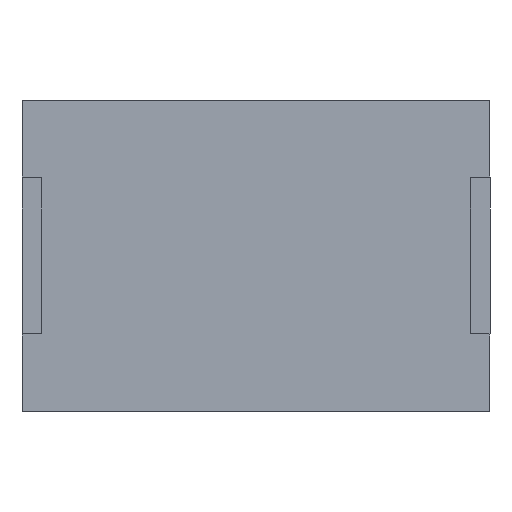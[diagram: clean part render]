
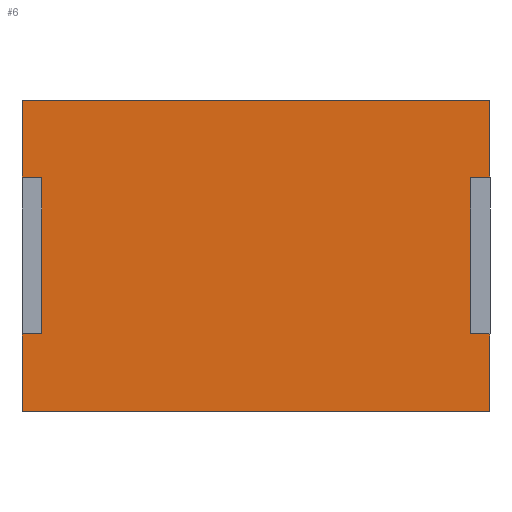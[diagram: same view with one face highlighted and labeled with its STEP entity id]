
A CAD part, front view. The second image highlights one B-rep face of the part: STEP entity #6.
In plain terms, the highlighted planar face has unit normal (0, -1, 0.001).
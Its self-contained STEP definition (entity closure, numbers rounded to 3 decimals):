
#1 = ORIENTED_EDGE ( 'NONE', *, *, #659, .F. ) ;
#6 = ADVANCED_FACE ( 'NONE', ( #354 ), #170, .F. ) ;
#11 = DIRECTION ( 'NONE',  ( -1., 0., 0. ) ) ;
#18 = VECTOR ( 'NONE', #207, 1000. ) ;
#25 = DIRECTION ( 'NONE',  ( 0., 0.001, 1. ) ) ;
#34 = CARTESIAN_POINT ( 'NONE',  ( 15., 0.012, 10. ) ) ;
#36 = CARTESIAN_POINT ( 'NONE',  ( 15., 0.012, 10. ) ) ;
#45 = ORIENTED_EDGE ( 'NONE', *, *, #668, .F. ) ;
#55 = AXIS2_PLACEMENT_3D ( 'NONE', #786, #109, #348 ) ;
#84 = LINE ( 'NONE', #146, #332 ) ;
#94 = VECTOR ( 'NONE', #25, 1000. ) ;
#98 = CARTESIAN_POINT ( 'NONE',  ( 15., 0.009, 5. ) ) ;
#102 = DIRECTION ( 'NONE',  ( 0., -0.001, -1. ) ) ;
#106 = EDGE_LOOP ( 'NONE', ( #154, #345, #615, #426, #557, #1, #683, #696, #437, #769, #45, #281 ) ) ;
#109 = DIRECTION ( 'NONE',  ( 0., 1., -0.001 ) ) ;
#116 = CARTESIAN_POINT ( 'NONE',  ( -15., 0., 10. ) ) ;
#121 = VECTOR ( 'NONE', #352, 1000. ) ;
#142 = VERTEX_POINT ( 'NONE', #237 ) ;
#146 = CARTESIAN_POINT ( 'NONE',  ( -15., 0., 10. ) ) ;
#149 = LINE ( 'NONE', #447, #609 ) ;
#154 = ORIENTED_EDGE ( 'NONE', *, *, #520, .F. ) ;
#170 = PLANE ( 'NONE',  #55 ) ;
#171 = DIRECTION ( 'NONE',  ( 1., 0., 0. ) ) ;
#173 = VECTOR ( 'NONE', #256, 1000. ) ;
#207 = DIRECTION ( 'NONE',  ( -1., 0., 0. ) ) ;
#212 = DIRECTION ( 'NONE',  ( 1., 0., 0. ) ) ;
#221 = EDGE_CURVE ( 'NONE', #638, #510, #522, .T. ) ;
#223 = VECTOR ( 'NONE', #212, 1000. ) ;
#232 = CARTESIAN_POINT ( 'NONE',  ( 13.75, 0.009, 5. ) ) ;
#237 = CARTESIAN_POINT ( 'NONE',  ( -15., -0.012, -10. ) ) ;
#242 = EDGE_CURVE ( 'NONE', #567, #455, #568, .T. ) ;
#250 = CARTESIAN_POINT ( 'NONE',  ( 13.75, 0.009, 5. ) ) ;
#252 = LINE ( 'NONE', #116, #121 ) ;
#256 = DIRECTION ( 'NONE',  ( 0., -0.001, -1. ) ) ;
#260 = VECTOR ( 'NONE', #284, 1000. ) ;
#267 = CARTESIAN_POINT ( 'NONE',  ( 15., 0.003, -5. ) ) ;
#281 = ORIENTED_EDGE ( 'NONE', *, *, #371, .F. ) ;
#284 = DIRECTION ( 'NONE',  ( 1., 0., 0. ) ) ;
#286 = VERTEX_POINT ( 'NONE', #34 ) ;
#291 = LINE ( 'NONE', #780, #664 ) ;
#308 = CARTESIAN_POINT ( 'NONE',  ( 15., 0.012, 10. ) ) ;
#332 = VECTOR ( 'NONE', #384, 1000. ) ;
#345 = ORIENTED_EDGE ( 'NONE', *, *, #466, .F. ) ;
#348 = DIRECTION ( 'NONE',  ( 0., 0.001, 1. ) ) ;
#352 = DIRECTION ( 'NONE',  ( 0., -0.001, -1. ) ) ;
#354 = FACE_OUTER_BOUND ( 'NONE', #106, .T. ) ;
#371 = EDGE_CURVE ( 'NONE', #685, #495, #611, .T. ) ;
#375 = LINE ( 'NONE', #574, #94 ) ;
#377 = CARTESIAN_POINT ( 'NONE',  ( 15., 0., -10. ) ) ;
#384 = DIRECTION ( 'NONE',  ( 0., -0.001, -1. ) ) ;
#389 = LINE ( 'NONE', #509, #223 ) ;
#392 = LINE ( 'NONE', #98, #18 ) ;
#409 = CARTESIAN_POINT ( 'NONE',  ( 15., 0.003, -5. ) ) ;
#424 = DIRECTION ( 'NONE',  ( 0., -0.001, -1. ) ) ;
#426 = ORIENTED_EDGE ( 'NONE', *, *, #746, .T. ) ;
#427 = LINE ( 'NONE', #308, #173 ) ;
#437 = ORIENTED_EDGE ( 'NONE', *, *, #643, .T. ) ;
#439 = CARTESIAN_POINT ( 'NONE',  ( -15., 0., 10. ) ) ;
#440 = VERTEX_POINT ( 'NONE', #439 ) ;
#442 = VERTEX_POINT ( 'NONE', #619 ) ;
#444 = CARTESIAN_POINT ( 'NONE',  ( 13.75, 0.003, -5. ) ) ;
#447 = CARTESIAN_POINT ( 'NONE',  ( -15., -0.003, 5. ) ) ;
#453 = CARTESIAN_POINT ( 'NONE',  ( -15., -0.003, 5. ) ) ;
#455 = VERTEX_POINT ( 'NONE', #377 ) ;
#464 = CARTESIAN_POINT ( 'NONE',  ( -15., -0.009, -5. ) ) ;
#466 = EDGE_CURVE ( 'NONE', #286, #653, #427, .T. ) ;
#495 = VERTEX_POINT ( 'NONE', #444 ) ;
#509 = CARTESIAN_POINT ( 'NONE',  ( -15., -0.012, -10. ) ) ;
#510 = VERTEX_POINT ( 'NONE', #642 ) ;
#520 = EDGE_CURVE ( 'NONE', #653, #685, #392, .T. ) ;
#522 = LINE ( 'NONE', #464, #260 ) ;
#526 = VECTOR ( 'NONE', #102, 1000. ) ;
#549 = DIRECTION ( 'NONE',  ( 1., 0., 0. ) ) ;
#557 = ORIENTED_EDGE ( 'NONE', *, *, #587, .F. ) ;
#558 = VECTOR ( 'NONE', #171, 1000. ) ;
#559 = LINE ( 'NONE', #409, #558 ) ;
#567 = VERTEX_POINT ( 'NONE', #267 ) ;
#568 = LINE ( 'NONE', #36, #526 ) ;
#569 = CARTESIAN_POINT ( 'NONE',  ( -15., -0.009, -5. ) ) ;
#574 = CARTESIAN_POINT ( 'NONE',  ( -13.75, -0.003, 5. ) ) ;
#579 = VECTOR ( 'NONE', #424, 1000. ) ;
#587 = EDGE_CURVE ( 'NONE', #442, #647, #149, .T. ) ;
#609 = VECTOR ( 'NONE', #11, 1000. ) ;
#611 = LINE ( 'NONE', #250, #579 ) ;
#613 = EDGE_CURVE ( 'NONE', #638, #142, #84, .T. ) ;
#615 = ORIENTED_EDGE ( 'NONE', *, *, #737, .F. ) ;
#619 = CARTESIAN_POINT ( 'NONE',  ( -13.75, -0.003, 5. ) ) ;
#636 = CARTESIAN_POINT ( 'NONE',  ( 15., 0.009, 5. ) ) ;
#638 = VERTEX_POINT ( 'NONE', #569 ) ;
#642 = CARTESIAN_POINT ( 'NONE',  ( -13.75, -0.009, -5. ) ) ;
#643 = EDGE_CURVE ( 'NONE', #142, #455, #389, .T. ) ;
#647 = VERTEX_POINT ( 'NONE', #453 ) ;
#653 = VERTEX_POINT ( 'NONE', #636 ) ;
#659 = EDGE_CURVE ( 'NONE', #510, #442, #375, .T. ) ;
#664 = VECTOR ( 'NONE', #549, 1000. ) ;
#668 = EDGE_CURVE ( 'NONE', #495, #567, #559, .T. ) ;
#683 = ORIENTED_EDGE ( 'NONE', *, *, #221, .F. ) ;
#685 = VERTEX_POINT ( 'NONE', #232 ) ;
#696 = ORIENTED_EDGE ( 'NONE', *, *, #613, .T. ) ;
#737 = EDGE_CURVE ( 'NONE', #440, #286, #291, .T. ) ;
#746 = EDGE_CURVE ( 'NONE', #440, #647, #252, .T. ) ;
#769 = ORIENTED_EDGE ( 'NONE', *, *, #242, .F. ) ;
#780 = CARTESIAN_POINT ( 'NONE',  ( -15., 0., 10. ) ) ;
#786 = CARTESIAN_POINT ( 'NONE',  ( 0., 0., 0. ) ) ;
